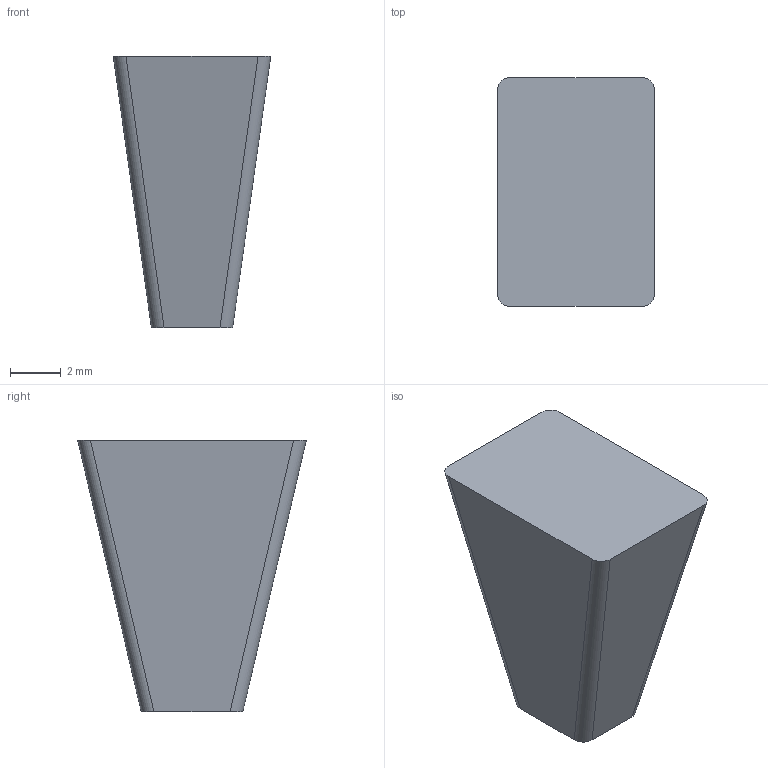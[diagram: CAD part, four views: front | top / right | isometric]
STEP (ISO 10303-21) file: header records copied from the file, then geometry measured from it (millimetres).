
FILE_DESCRIPTION(('Open CASCADE Model'),'2;1');
FILE_NAME('Open CASCADE Shape Model','2026-09-15T13:40:31',('Author'),( 'Open CASCADE'),'Open CASCADE STEP processor 7.7','Open CASCADE 7.7' ,'Unknown');
FILE_SCHEMA(('AUTOMOTIVE_DESIGN { 1 0 10303 214 1 1 1 1 }'));
Length unit declared in the file: millimetre
Products named in the file (1): COMPOUND
Bounding box: 6.2 x 9 x 10.71 mm (x, y, z)
Volume: 338.3 mm3; surface area: 303.1 mm2
Topology: 1 solids, 1 shells, 10 faces, 24 edges, 16 vertices
Faces by surface type: bspline 8, plane 2
Entity records: 654 total; most frequent: CARTESIAN_POINT 183, DIRECTION 74, ORIENTED_EDGE 48, PCURVE 48, DEFINITIONAL_REPRESENTATION 48, LINE 44, VECTOR 44, EDGE_CURVE 24
